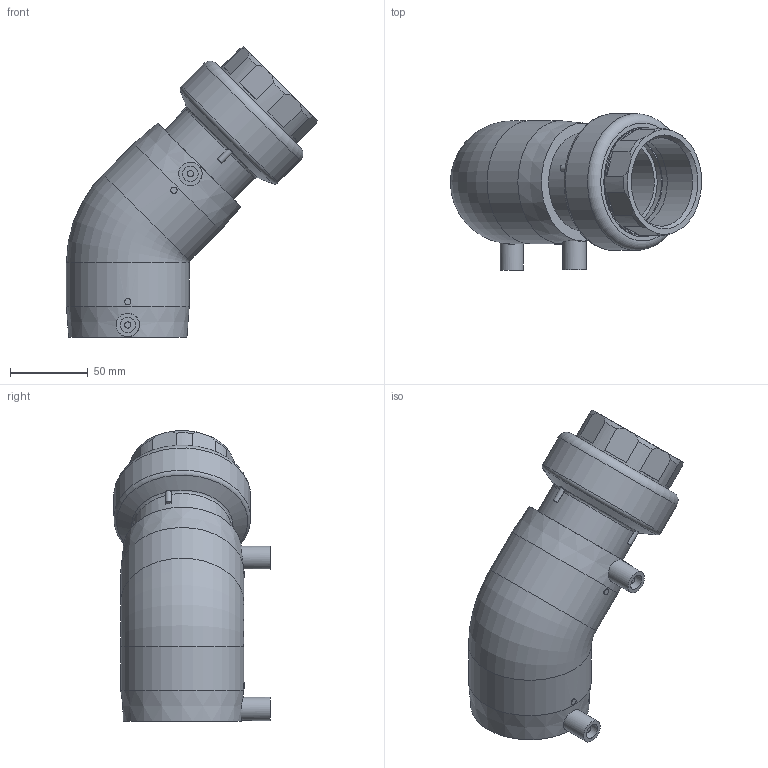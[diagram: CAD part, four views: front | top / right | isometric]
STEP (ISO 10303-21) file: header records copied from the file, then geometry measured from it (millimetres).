
FILE_DESCRIPTION(/* description */ ('Unknown'),/* implementation_level */ '2;1');
FILE_NAME(/* name */ 'GE4TFP063C',/* time_stamp */ '2021-03-02T15:49:21+01:00',/* author */ ('Unknown'),/* organization */ ('Unknown'),/* preprocessor_version */ 'ST-DEVELOPER v16.7',/* originating_system */ 'Solid Edge',/* authorisation */ 'Unknown');
FILE_SCHEMA (('AUTOMOTIVE_DESIGN {1 0 10303 214 3 1 1}'));
Length unit declared in the file: millimetre
Products named in the file (5): GE4TFP063C; GE4P063C; RTOFP063C; Parte PE 063; IOF063C
Assembly tree (4 placements, depth 3):
  GE4TFP063C
    GE4P063C
    RTOFP063C
      Parte PE 063
      IOF063C
Bounding box: 161.63 x 100.4 x 187.13 mm (x, y, z)
Volume: 446131.5 mm3; surface area: 141979.1 mm2
Topology: 3 solids, 3 shells, 348 faces, 907 edges, 592 vertices
Faces by surface type: bspline 111, plane 100, cone 67, cylinder 46, torus 24
Full cylindrical faces by diameter (mm): 4 x4, 10 x2, 15 x2, 51.4 x1, 55.6 x3, 57 x2, 60 x2, 60.2 x2, 63 x3, 67 x2, 69 x3, 74 x6, 79 x2, 88 x1
Entity records: 13589 total; most frequent: CARTESIAN_POINT 5369, ORIENTED_EDGE 1658, DIRECTION 1074, EDGE_CURVE 829, VERTEX_POINT 574, AXIS2_PLACEMENT_3D 491, B_SPLINE_CURVE_WITH_KNOTS 488, EDGE_LOOP 441
